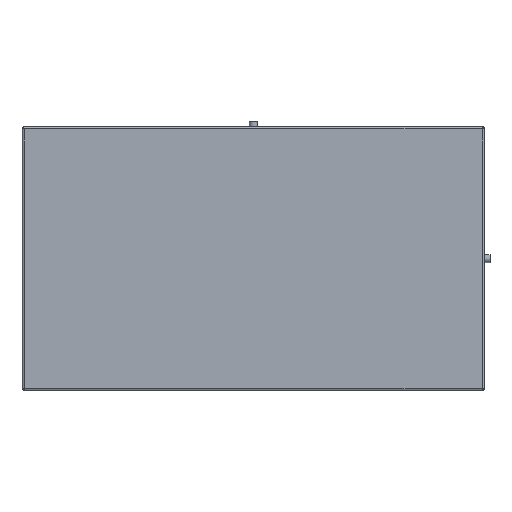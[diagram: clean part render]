
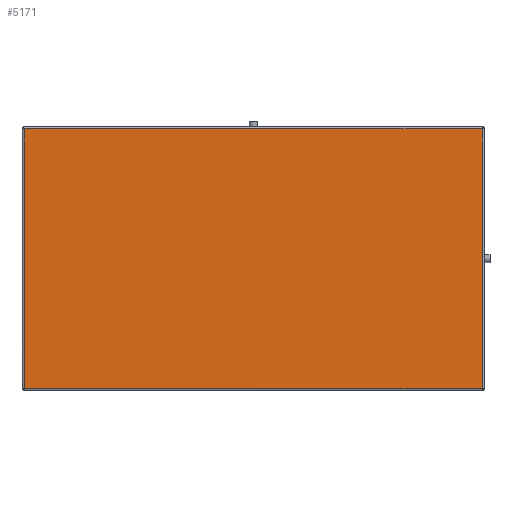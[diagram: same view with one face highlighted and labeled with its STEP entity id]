
A CAD part, front view. The second image highlights one B-rep face of the part: STEP entity #5171.
In plain terms, the highlighted planar face has unit normal (0, -1, 0).
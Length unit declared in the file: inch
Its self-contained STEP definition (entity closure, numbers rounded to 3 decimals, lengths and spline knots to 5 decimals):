
#278 = DIRECTION ( 'NONE',  ( 0., 0., -1. ) ) ;
#289 = CARTESIAN_POINT ( 'NONE',  ( -56.62515, 2.4134, 29.1982 ) ) ;
#291 = DIRECTION ( 'NONE',  ( -1., 0., 0. ) ) ;
#306 = DIRECTION ( 'NONE',  ( 0., 0., 1. ) ) ;
#307 = CARTESIAN_POINT ( 'NONE',  ( 26.51625, 2.4134, -18.37249 ) ) ;
#357 = CARTESIAN_POINT ( 'NONE',  ( 26.7309, 2.4134, 28.98356 ) ) ;
#650 = CARTESIAN_POINT ( 'NONE',  ( 26.51625, 2.4134, 28.98356 ) ) ;
#670 = DIRECTION ( 'NONE',  ( 1., 0., 0. ) ) ;
#695 = CARTESIAN_POINT ( 'NONE',  ( -56.83979, 2.4134, -18.15784 ) ) ;
#1259 = LINE ( 'NONE', #289, #4030 ) ;
#1286 = DIRECTION ( 'NONE',  ( 0., 0., -1. ) ) ;
#1294 = PLANE ( 'NONE',  #5799 ) ;
#1321 = CARTESIAN_POINT ( 'NONE',  ( 26.94555, 2.4134, -18.58714 ) ) ;
#1380 = DIRECTION ( 'NONE',  ( 0., -1., 0. ) ) ;
#1469 = VECTOR ( 'NONE', #306, 39.37008 ) ;
#1666 = LINE ( 'NONE', #695, #7377 ) ;
#2479 = CARTESIAN_POINT ( 'NONE',  ( -56.62515, 2.4134, 28.98356 ) ) ;
#2504 = VERTEX_POINT ( 'NONE', #6329 ) ;
#3164 = EDGE_LOOP ( 'NONE', ( #3199, #5768, #5096, #3356 ) ) ;
#3199 = ORIENTED_EDGE ( 'NONE', *, *, #7558, .T. ) ;
#3356 = ORIENTED_EDGE ( 'NONE', *, *, #7570, .T. ) ;
#3585 = VERTEX_POINT ( 'NONE', #4482 ) ;
#4030 = VECTOR ( 'NONE', #278, 39.37008 ) ;
#4202 = LINE ( 'NONE', #357, #7161 ) ;
#4482 = CARTESIAN_POINT ( 'NONE',  ( -56.62515, 2.4134, -18.15784 ) ) ;
#4779 = VERTEX_POINT ( 'NONE', #2479 ) ;
#4812 = FACE_OUTER_BOUND ( 'NONE', #3164, .T. ) ;
#5096 = ORIENTED_EDGE ( 'NONE', *, *, #7568, .T. ) ;
#5171 = ADVANCED_FACE ( 'NONE', ( #4812 ), #1294, .T. ) ;
#5280 = VERTEX_POINT ( 'NONE', #650 ) ;
#5634 = LINE ( 'NONE', #307, #1469 ) ;
#5768 = ORIENTED_EDGE ( 'NONE', *, *, #7567, .T. ) ;
#5799 = AXIS2_PLACEMENT_3D ( 'NONE', #1321, #1380, #1286 ) ;
#6329 = CARTESIAN_POINT ( 'NONE',  ( 26.51625, 2.4134, -18.15784 ) ) ;
#7161 = VECTOR ( 'NONE', #291, 39.37008 ) ;
#7377 = VECTOR ( 'NONE', #670, 39.37008 ) ;
#7558 = EDGE_CURVE ( 'NONE', #3585, #2504, #1666, .T. ) ;
#7567 = EDGE_CURVE ( 'NONE', #2504, #5280, #5634, .T. ) ;
#7568 = EDGE_CURVE ( 'NONE', #5280, #4779, #4202, .T. ) ;
#7570 = EDGE_CURVE ( 'NONE', #4779, #3585, #1259, .T. ) ;
